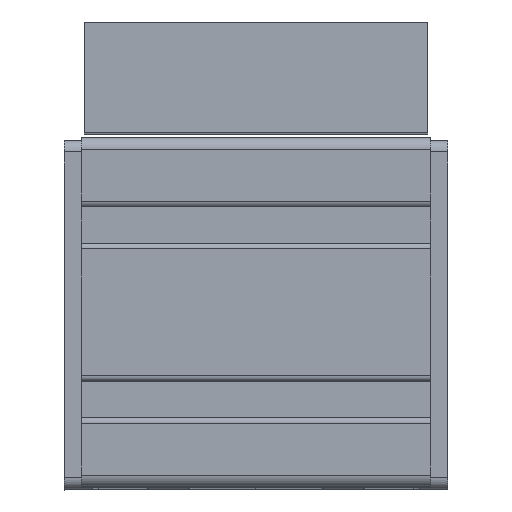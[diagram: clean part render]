
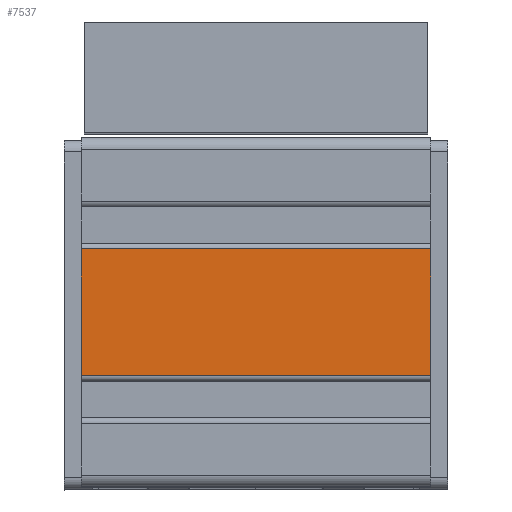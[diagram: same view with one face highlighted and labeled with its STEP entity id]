
A CAD part, top view. The second image highlights one B-rep face of the part: STEP entity #7537.
In plain terms, the highlighted planar face has unit normal (0, 0, 1) as drawn and (1, 0, 0) by its records, which use the part's own axes.
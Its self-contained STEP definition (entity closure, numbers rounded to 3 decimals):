
#878 = EDGE_CURVE ( 'NONE', #13799, #1333, #8590, .T. ) ;
#1333 = VERTEX_POINT ( 'NONE', #14105 ) ;
#1451 = VECTOR ( 'NONE', #16029, 1000. ) ;
#1898 = ORIENTED_EDGE ( 'NONE', *, *, #878, .T. ) ;
#2053 = DIRECTION ( 'NONE',  ( 1., 0., 0. ) ) ;
#2452 = ORIENTED_EDGE ( 'NONE', *, *, #16372, .T. ) ;
#3683 = DIRECTION ( 'NONE',  ( 0., 0., 1. ) ) ;
#3878 = EDGE_CURVE ( 'NONE', #8522, #13799, #6527, .T. ) ;
#3942 = LINE ( 'NONE', #7733, #9630 ) ;
#5280 = LINE ( 'NONE', #13493, #1451 ) ;
#5381 = EDGE_LOOP ( 'NONE', ( #2452, #15248, #6073, #1898 ) ) ;
#6073 = ORIENTED_EDGE ( 'NONE', *, *, #3878, .T. ) ;
#6100 = PLANE ( 'NONE',  #10610 ) ;
#6189 = DIRECTION ( 'NONE',  ( 0., 0., 1. ) ) ;
#6527 = LINE ( 'NONE', #7501, #12464 ) ;
#7501 = CARTESIAN_POINT ( 'NONE',  ( 30., -10.9, 0. ) ) ;
#7537 = ADVANCED_FACE ( 'NONE', ( #12315 ), #6100, .T. ) ;
#7668 = VECTOR ( 'NONE', #16541, 1000. ) ;
#7733 = CARTESIAN_POINT ( 'NONE',  ( 30., -10.9, 0. ) ) ;
#7847 = DIRECTION ( 'NONE',  ( 0., 1., 0. ) ) ;
#8201 = VERTEX_POINT ( 'NONE', #12966 ) ;
#8522 = VERTEX_POINT ( 'NONE', #16893 ) ;
#8590 = LINE ( 'NONE', #11261, #7668 ) ;
#9630 = VECTOR ( 'NONE', #3683, 1000. ) ;
#10610 = AXIS2_PLACEMENT_3D ( 'NONE', #15021, #2053, #6189 ) ;
#11261 = CARTESIAN_POINT ( 'NONE',  ( 30., 10.9, 0. ) ) ;
#12315 = FACE_OUTER_BOUND ( 'NONE', #5381, .T. ) ;
#12464 = VECTOR ( 'NONE', #7847, 1000. ) ;
#12966 = CARTESIAN_POINT ( 'NONE',  ( 30., -10.9, 60. ) ) ;
#12980 = CARTESIAN_POINT ( 'NONE',  ( 30., 10.9, 0. ) ) ;
#13493 = CARTESIAN_POINT ( 'NONE',  ( 30., -10.9, 60. ) ) ;
#13799 = VERTEX_POINT ( 'NONE', #12980 ) ;
#14105 = CARTESIAN_POINT ( 'NONE',  ( 30., 10.9, 60. ) ) ;
#15021 = CARTESIAN_POINT ( 'NONE',  ( 30., 10.9, 0. ) ) ;
#15248 = ORIENTED_EDGE ( 'NONE', *, *, #16813, .F. ) ;
#16029 = DIRECTION ( 'NONE',  ( 0., -1., 0. ) ) ;
#16372 = EDGE_CURVE ( 'NONE', #1333, #8201, #5280, .T. ) ;
#16541 = DIRECTION ( 'NONE',  ( 0., 0., 1. ) ) ;
#16813 = EDGE_CURVE ( 'NONE', #8522, #8201, #3942, .T. ) ;
#16893 = CARTESIAN_POINT ( 'NONE',  ( 30., -10.9, 0. ) ) ;
